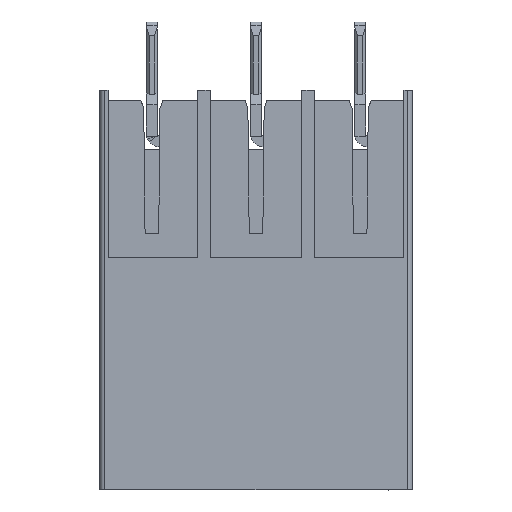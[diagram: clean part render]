
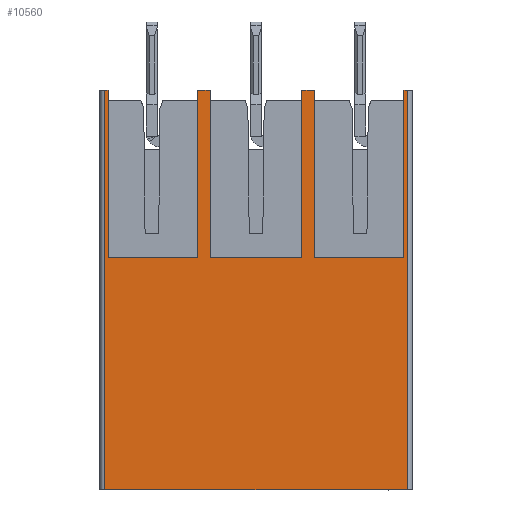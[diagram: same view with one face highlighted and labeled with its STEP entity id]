
A CAD part, front view. The second image highlights one B-rep face of the part: STEP entity #10560.
In plain terms, the highlighted planar face has unit normal (0, -1, 0).
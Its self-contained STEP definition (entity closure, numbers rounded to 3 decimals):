
#52=DIRECTION('',(-1.,0.,0.));
#53=VECTOR('',#52,0.26);
#54=CARTESIAN_POINT('',(18.7,-6.8,0.));
#55=LINE('',#54,#53);
#227=DIRECTION('',(0.,0.,1.));
#228=VECTOR('',#227,12.25);
#229=CARTESIAN_POINT('',(4.27,-6.8,-12.25));
#230=LINE('',#229,#228);
#607=DIRECTION('',(-1.,0.,0.));
#608=VECTOR('',#607,0.92);
#609=CARTESIAN_POINT('',(4.27,-6.8,0.));
#610=LINE('',#609,#608);
#623=DIRECTION('',(-1.,0.,0.));
#624=VECTOR('',#623,22.16);
#625=CARTESIAN_POINT('',(18.7,-6.8,-29.25));
#626=LINE('',#625,#624);
#627=DIRECTION('',(0.,0.,1.));
#628=VECTOR('',#627,12.25);
#629=CARTESIAN_POINT('',(3.35,-6.8,-12.25));
#630=LINE('',#629,#628);
#631=DIRECTION('',(0.,0.,1.));
#632=VECTOR('',#631,12.25);
#633=CARTESIAN_POINT('',(10.97,-6.8,-12.25));
#634=LINE('',#633,#632);
#635=DIRECTION('',(0.,0.,1.));
#636=VECTOR('',#635,12.25);
#637=CARTESIAN_POINT('',(18.44,-6.8,-12.25));
#638=LINE('',#637,#636);
#1224=DIRECTION('',(-1.,0.,0.));
#1225=VECTOR('',#1224,0.26);
#1226=CARTESIAN_POINT('',(-3.2,-6.8,0.));
#1227=LINE('',#1226,#1225);
#1250=DIRECTION('',(0.,0.,1.));
#1251=VECTOR('',#1250,12.25);
#1252=CARTESIAN_POINT('',(-3.2,-6.8,-12.25));
#1253=LINE('',#1252,#1251);
#1608=DIRECTION('',(-1.,0.,0.));
#1609=VECTOR('',#1608,6.55);
#1610=CARTESIAN_POINT('',(3.35,-6.8,-12.25));
#1611=LINE('',#1610,#1609);
#2078=DIRECTION('',(0.,0.,1.));
#2079=VECTOR('',#2078,12.25);
#2080=CARTESIAN_POINT('',(11.89,-6.8,-12.25));
#2081=LINE('',#2080,#2079);
#2254=DIRECTION('',(-1.,0.,0.));
#2255=VECTOR('',#2254,6.55);
#2256=CARTESIAN_POINT('',(18.44,-6.8,-12.25));
#2257=LINE('',#2256,#2255);
#2282=DIRECTION('',(-1.,0.,0.));
#2283=VECTOR('',#2282,0.92);
#2284=CARTESIAN_POINT('',(11.89,-6.8,0.));
#2285=LINE('',#2284,#2283);
#7107=DIRECTION('',(0.,0.,-1.));
#7108=VECTOR('',#7107,29.25);
#7109=CARTESIAN_POINT('',(-3.46,-6.8,0.));
#7110=LINE('',#7109,#7108);
#7437=DIRECTION('',(0.,0.,1.));
#7438=VECTOR('',#7437,29.25);
#7439=CARTESIAN_POINT('',(18.7,-6.8,-29.25));
#7440=LINE('',#7439,#7438);
#7445=DIRECTION('',(-1.,0.,0.));
#7446=VECTOR('',#7445,6.7);
#7447=CARTESIAN_POINT('',(10.97,-6.8,-12.25));
#7448=LINE('',#7447,#7446);
#7494=CARTESIAN_POINT('',(18.44,-6.8,0.));
#7496=VERTEX_POINT('',#7494);
#7498=CARTESIAN_POINT('',(18.7,-6.8,0.));
#7499=VERTEX_POINT('',#7498);
#7512=CARTESIAN_POINT('',(18.44,-6.8,-12.25));
#7513=VERTEX_POINT('',#7512);
#7872=CARTESIAN_POINT('',(11.89,-6.8,-12.25));
#7873=VERTEX_POINT('',#7872);
#7874=CARTESIAN_POINT('',(11.89,-6.8,0.));
#7875=VERTEX_POINT('',#7874);
#7880=CARTESIAN_POINT('',(10.97,-6.8,0.));
#7881=VERTEX_POINT('',#7880);
#7882=CARTESIAN_POINT('',(10.97,-6.8,-12.25));
#7883=VERTEX_POINT('',#7882);
#7908=CARTESIAN_POINT('',(18.7,-6.8,-29.25));
#7909=CARTESIAN_POINT('',(-3.46,-6.8,-29.25));
#7910=VERTEX_POINT('',#7908);
#7911=VERTEX_POINT('',#7909);
#7912=CARTESIAN_POINT('',(-3.46,-6.8,0.));
#7913=VERTEX_POINT('',#7912);
#7914=CARTESIAN_POINT('',(-3.2,-6.8,0.));
#7915=VERTEX_POINT('',#7914);
#7916=CARTESIAN_POINT('',(-3.2,-6.8,-12.25));
#7917=VERTEX_POINT('',#7916);
#7918=CARTESIAN_POINT('',(3.35,-6.8,-12.25));
#7919=VERTEX_POINT('',#7918);
#7920=CARTESIAN_POINT('',(3.35,-6.8,0.));
#7921=VERTEX_POINT('',#7920);
#7922=CARTESIAN_POINT('',(4.27,-6.8,0.));
#7923=VERTEX_POINT('',#7922);
#7924=CARTESIAN_POINT('',(4.27,-6.8,-12.25));
#7925=VERTEX_POINT('',#7924);
#10526=CARTESIAN_POINT('',(-19.05,-6.8,0.));
#10527=DIRECTION('',(0.,-1.,0.));
#10528=DIRECTION('',(0.,0.,-1.));
#10529=AXIS2_PLACEMENT_3D('',#10526,#10527,#10528);
#10530=PLANE('',#10529);
#10532=ORIENTED_EDGE('',*,*,#10531,.T.);
#10534=ORIENTED_EDGE('',*,*,#10533,.F.);
#10536=ORIENTED_EDGE('',*,*,#10535,.F.);
#10538=ORIENTED_EDGE('',*,*,#10537,.F.);
#10540=ORIENTED_EDGE('',*,*,#10539,.F.);
#10542=ORIENTED_EDGE('',*,*,#10541,.T.);
#10543=ORIENTED_EDGE('',*,*,#10517,.F.);
#10544=ORIENTED_EDGE('',*,*,#10028,.F.);
#10546=ORIENTED_EDGE('',*,*,#10545,.F.);
#10547=ORIENTED_EDGE('',*,*,#10199,.T.);
#10549=ORIENTED_EDGE('',*,*,#10548,.F.);
#10551=ORIENTED_EDGE('',*,*,#10550,.F.);
#10553=ORIENTED_EDGE('',*,*,#10552,.F.);
#10554=ORIENTED_EDGE('',*,*,#9738,.T.);
#10555=ORIENTED_EDGE('',*,*,#9707,.F.);
#10557=ORIENTED_EDGE('',*,*,#10556,.F.);
#10558=EDGE_LOOP('',(#10532,#10534,#10536,#10538,#10540,#10542,#10543,#10544,
#10546,#10547,#10549,#10551,#10553,#10554,#10555,#10557));
#10559=FACE_OUTER_BOUND('',#10558,.F.);
#10560=ADVANCED_FACE('',(#10559),#10530,.T.);
#9707=EDGE_CURVE('',#7499,#7496,#55,.T.);
#9738=EDGE_CURVE('',#7513,#7496,#638,.T.);
#10028=EDGE_CURVE('',#7925,#7923,#230,.T.);
#10199=EDGE_CURVE('',#7883,#7881,#634,.T.);
#10517=EDGE_CURVE('',#7923,#7921,#610,.T.);
#10531=EDGE_CURVE('',#7910,#7911,#626,.T.);
#10533=EDGE_CURVE('',#7913,#7911,#7110,.T.);
#10535=EDGE_CURVE('',#7915,#7913,#1227,.T.);
#10537=EDGE_CURVE('',#7917,#7915,#1253,.T.);
#10539=EDGE_CURVE('',#7919,#7917,#1611,.T.);
#10541=EDGE_CURVE('',#7919,#7921,#630,.T.);
#10545=EDGE_CURVE('',#7883,#7925,#7448,.T.);
#10548=EDGE_CURVE('',#7875,#7881,#2285,.T.);
#10550=EDGE_CURVE('',#7873,#7875,#2081,.T.);
#10552=EDGE_CURVE('',#7513,#7873,#2257,.T.);
#10556=EDGE_CURVE('',#7910,#7499,#7440,.T.);
